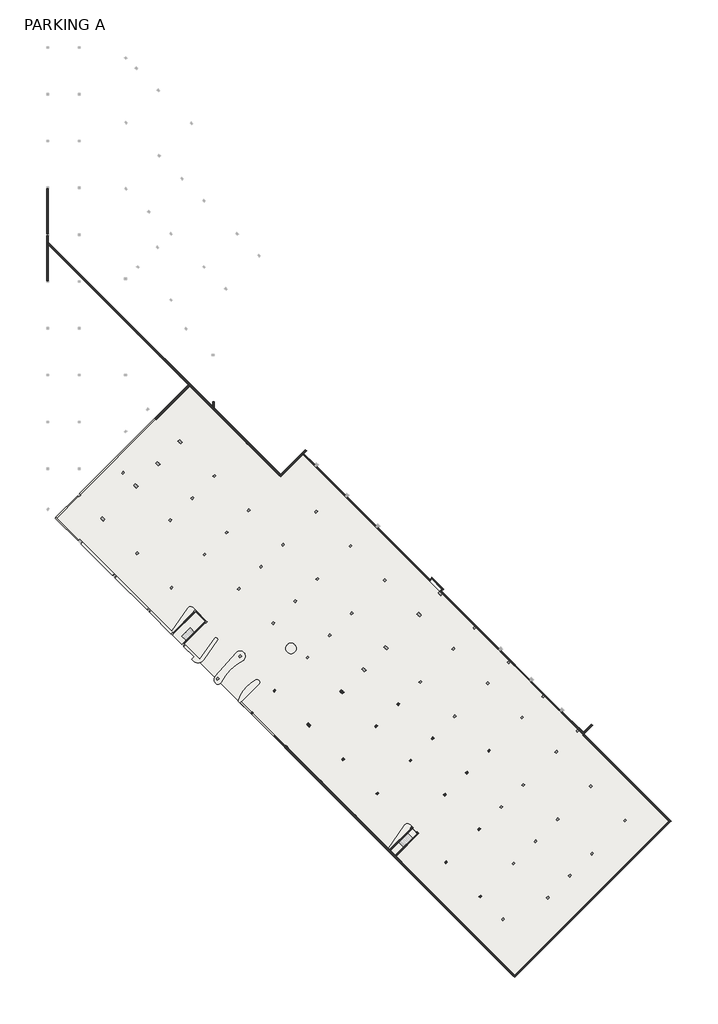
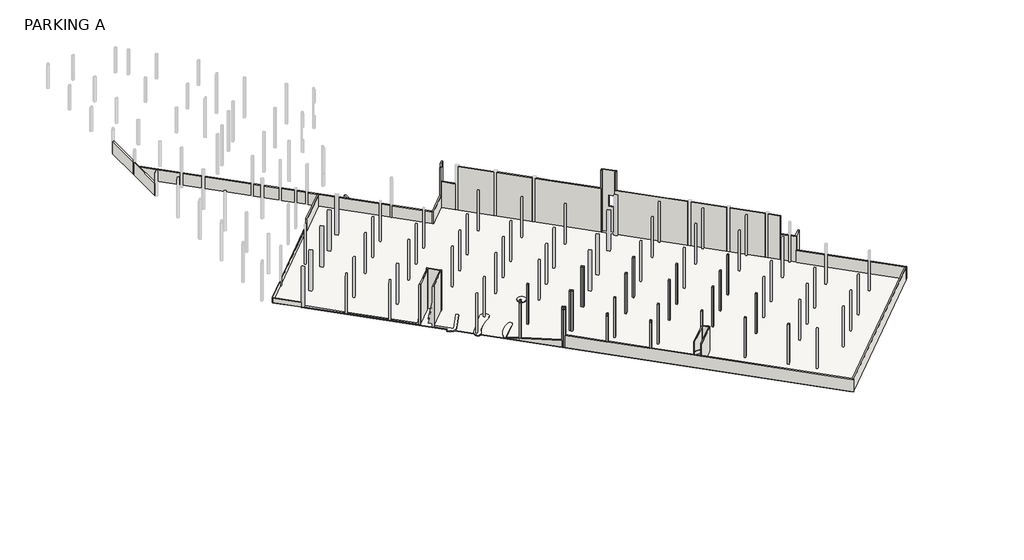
# One storey, part 1 of 3: 33 walls, 23 columns, 3 slabs, 1 door.
"""IFC4 building model written with IfcOpenShell, lengths in millimetres."""

from ifc_helpers import new_model, si_unit, point, frame, frame_2d, origin, place, context, project, spatial, polyline, circle_curve, trimmed, segment, composite_curve, outline, extrude, faceted_brep, transform, mapped, element, save
from components import column_746bd152, column_d698a775, door_25aa1bd3

model = new_model("IFC4")

# Units and contexts
model_context = context("Model", 3, world=origin())
ifc_project = project(units=[si_unit("LENGTHUNIT", "METRE", prefix="MILLI")], contexts=[model_context])

# Site, building, storey
site = spatial("IfcSite", under=ifc_project)
building = spatial("IfcBuilding", under=site)
storey = spatial("IfcBuildingStorey", under=building, Name="PARKING A", Elevation=-6007.1)

# Columns
placement = place(None, origin())
element("IfcColumn", 1, ObjectType="Rectangular Column : 12\" x 16\"", at=placement, inside=storey, context=model_context, shape_type="SweptSolid", body=[
    extrude(outline(polyline([(-15500.8515289, -25040.6553796), (-15285.325382, -25256.1815265), (-15572.6935779, -25543.5497224), (-15788.2197248, -25328.0235755), (-15500.8515289, -25040.6553796)])), frame((0.0, 0.0, -6007.1), z_axis=(0.0, 0.0, 1.0), x_axis=(1.0, 0.0, 0.0)), (0.0, 0.0, 1.0), 9232.9),
])
element("IfcColumn", 2, ObjectType="Rectangular Column : 12\" x 16\"", at=placement, inside=storey, context=model_context, shape_type="Brep", body=[
    faceted_brep([(-37430.6369765, -11013.4953185, -6007.1), (-37215.1108296, -11229.0214654, -6007.1), (-37286.9528786, -11300.8635144, -6007.1), (-37502.4790255, -11516.3896613, -6007.1), (-37718.0051724, -11300.8635144, -6007.1), (-37430.6369765, -11013.4953185, 3225.8), (-37215.1108296, -11229.0214654, 3225.8), (-37394.7159521, -11408.6265878, 3225.8), (-37394.7159521, -11408.6265878, 2717.8), (-37502.4790255, -11516.3896613, 2717.8), (-37502.4790255, -11516.3896613, 762.0), (-37502.4790255, -11516.3896613, -152.4), (-37502.4790255, -11516.3896613, -2286.0), (-37502.4790255, -11516.3896613, -3200.4), (-37718.0051724, -11300.8635144, 2717.8), (-37610.242099, -11193.1004409, 2717.8), (-37610.242099, -11193.1004409, 3225.8)], [[[0, 1, 2, 3, 4]], [[1, 0, 5, 6]], [[1, 6, 7, 8, 9, 10, 11, 12, 13, 3, 2]], [[4, 3, 13, 12, 11, 10, 9, 14]], [[0, 4, 14, 15, 16, 5]], [[6, 5, 16, 7]], [[15, 8, 7, 16]], [[8, 15, 14, 9]]]),
])
element("IfcColumn", 3, ObjectType="Rectangular Column : 12\" x 16\"", at=placement, inside=storey, context=model_context, shape_type="Brep", body=[
    faceted_brep([(-37466.558001, -10977.574294, -6007.1), (-37753.9261969, -11264.9424899, -6007.1), (-37969.4523438, -11049.416343, -6007.1), (-37753.9261969, -10833.8901961, -6007.1), (-37682.0841479, -10762.0481471, -6007.1), (-37682.0841479, -10762.0481471, 3225.8), (-37466.558001, -10977.574294, 3225.8), (-37969.4523438, -11049.416343, -4483.1), (-37969.4523438, -11049.416343, -3657.6), (-37969.4523438, -11049.416343, -2286.0), (-37969.4523438, -11049.416343, -609.6), (-37969.4523438, -11049.416343, 762.0), (-37969.4523438, -11049.416343, 2717.8), (-37861.6892703, -10941.6532695, 2717.8), (-37861.6892703, -10941.6532695, 3225.8), (-37753.9261969, -11264.9424899, 2717.8), (-37646.1631234, -11157.1794164, 3225.8), (-37646.1631234, -11157.1794164, 2717.8)], [[[0, 1, 2, 3, 4]], [[0, 4, 5, 6]], [[5, 4, 3, 2, 7, 8, 9, 10, 11, 12, 13, 14]], [[2, 1, 15, 12, 11, 10, 9, 8, 7]], [[1, 0, 6, 16, 17, 15]], [[6, 5, 14, 16]], [[13, 17, 16, 14]], [[17, 13, 12, 15]]]),
])
element("IfcColumn", 4, ObjectType="Rectangular Column : 12\" x 16\"", at=placement, inside=storey, context=model_context, shape_type="Brep", body=[
    faceted_brep([(-43591.0926756, -4853.0396194, -6007.1), (-43375.5665287, -5068.5657663, -6007.1), (-43447.4085777, -5140.4078153, -6007.1), (-43662.9347246, -4924.8816684, -6007.1), (-43591.0926756, -4853.0396194, 3225.8), (-43375.5665287, -5068.5657663, 3225.8), (-43555.1716511, -5248.1708888, 3225.8), (-43555.1716511, -5248.1708888, 2717.8), (-43662.9347246, -5355.9339622, 2717.8), (-43662.9347246, -5355.9339622, 762.0), (-43662.9347246, -5355.9339622, -609.6), (-43662.9347246, -5355.9339622, -2286.0), (-43662.9347246, -5355.9339622, -3657.6), (-43662.9347246, -5355.9339622, -5491.9102088), (-43447.4085777, -5140.4078153, -5491.9102088), (-43878.4608715, -5140.4078153, -5530.0986079), (-43878.4608715, -5140.4078153, 2717.8), (-43878.4608715, -5140.4078153, 762.0), (-43878.4608715, -5140.4078153, -609.6), (-43878.4608715, -5140.4078153, -2286.0), (-43878.4608715, -5140.4078153, -3657.6), (-43662.9347246, -4924.8816684, -5530.0986079), (-43770.697798, -5032.6447418, 2717.8), (-43770.697798, -5032.6447418, 3225.8)], [[[0, 1, 2, 3]], [[1, 0, 4, 5]], [[1, 5, 6, 7, 8, 9, 10, 11, 12, 13, 14, 2]], [[15, 13, 12, 11, 10, 9, 8, 16, 17, 18, 19, 20]], [[4, 0, 3, 21, 15, 20, 19, 18, 17, 16, 22, 23]], [[5, 4, 23, 6]], [[14, 21, 3, 2]], [[21, 14, 13, 15]], [[22, 7, 6, 23]], [[7, 22, 16, 8]]]),
])
element("IfcColumn", 5, ObjectType="Rectangular Column : 12\" x 16\"", at=placement, inside=storey, context=model_context, shape_type="Brep", body=[
    faceted_brep([(-25486.8963355, -22957.2359595, -6007.1), (-25271.3701886, -23172.7621064, -6007.1), (-25343.2122376, -23244.6041554, -6007.1), (-25558.7383845, -23029.0780085, -6007.1), (-25486.8963355, -22957.2359595, 3225.8), (-25271.3701886, -23172.7621064, 3225.8), (-25450.975311, -23352.3672288, 3225.8), (-25450.975311, -23352.3672288, 2717.8), (-25558.7383845, -23460.1303023, 2717.8), (-25558.7383845, -23460.1303023, 762.0), (-25558.7383845, -23460.1303023, -152.4), (-25558.7383845, -23460.1303023, -3200.4), (-25343.2122376, -23244.6041554, -3200.4), (-25774.2645314, -23244.6041554, -3200.4), (-25774.2645314, -23244.6041554, 2717.8), (-25774.2645314, -23244.6041554, 762.0), (-25774.2645314, -23244.6041554, -152.4), (-25558.7383845, -23029.0780085, -3200.4), (-25666.5014579, -23136.8410819, 2717.8), (-25666.5014579, -23136.8410819, 3225.8)], [[[0, 1, 2, 3]], [[1, 0, 4, 5]], [[1, 5, 6, 7, 8, 9, 10, 11, 12, 2]], [[13, 11, 10, 9, 8, 14, 15, 16]], [[4, 0, 3, 17, 13, 16, 15, 14, 18, 19]], [[5, 4, 19, 6]], [[12, 17, 3, 2]], [[17, 12, 11, 13]], [[18, 7, 6, 19]], [[7, 18, 14, 8]]]),
])
element("IfcColumn", 6, ObjectType="Rectangular Column : 12\" x 16\"", at=placement, inside=storey, context=model_context, shape_type="Brep", body=[
    faceted_brep([(-31521.6284489, -16922.5038461, -6007.1), (-31306.102302, -17138.029993, -6007.1), (-31377.9443509, -17209.872042, -6007.1), (-31593.4704978, -16994.3458951, -6007.1), (-31521.6284489, -16922.5038461, 3225.8), (-31306.102302, -17138.029993, 3225.8), (-31485.7074244, -17317.6351155, 3225.8), (-31485.7074244, -17317.6351155, 2717.8), (-31593.4704978, -17425.3981889, 2717.8), (-31593.4704978, -17425.3981889, 762.0), (-31593.4704978, -17425.3981889, -152.4), (-31593.4704978, -17425.3981889, -3200.4), (-31377.9443509, -17209.872042, -3200.4), (-31808.9966447, -17209.872042, -3200.4), (-31808.9966447, -17209.872042, 2717.8), (-31808.9966447, -17209.872042, 762.0), (-31808.9966447, -17209.872042, -152.4), (-31808.9966447, -17209.872042, -2286.0), (-31593.4704978, -16994.3458951, -3200.4), (-31701.2335713, -17102.1089686, -3200.4), (-31701.2335713, -17102.1089686, 2717.8), (-31701.2335713, -17102.1089686, 3225.8)], [[[0, 1, 2, 3]], [[1, 0, 4, 5]], [[1, 5, 6, 7, 8, 9, 10, 11, 12, 2]], [[13, 11, 10, 9, 8, 14, 15, 16, 17]], [[4, 0, 3, 18, 19, 13, 17, 16, 15, 14, 20, 21]], [[5, 4, 21, 6]], [[12, 18, 3, 2]], [[18, 12, 11, 13, 19]], [[20, 7, 6, 21]], [[7, 20, 14, 8]]]),
])
column_shape = column_746bd152(model_context)
element("IfcColumn", 7, ObjectType="Rectangular Column : 12\" x 16\"", at=placement, inside=storey, context=model_context, shape_type="MappedRepresentation", body=[
    mapped(column_shape, transform((-3467.3083267, -37361.5667777, 0.0), x_axis=(0.7071067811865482, 0.7071067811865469, 0.0), y_axis=(-0.7071067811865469, 0.7071067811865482, 0.0), z_axis=(0.0, 0.0, 1.0))),
])
element("IfcColumn", 8, ObjectType="Rectangular Column : 12\" x 16\"", at=placement, inside=storey, context=model_context, shape_type="MappedRepresentation", body=[
    mapped(column_shape, transform((-3682.8344736, -25507.6286979, 0.0), x_axis=(0.7071067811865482, 0.7071067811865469, 0.0), y_axis=(-0.7071067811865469, 0.7071067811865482, 0.0), z_axis=(0.0, 0.0, 1.0))),
])
element("IfcColumn", 9, ObjectType="Rectangular Column : 12\" x 16\"", at=placement, inside=storey, context=model_context, shape_type="MappedRepresentation", body=[
    mapped(column_shape, transform((-9502.04044, -31326.8346643, 0.0), x_axis=(0.7071067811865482, 0.7071067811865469, 0.0), y_axis=(-0.7071067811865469, 0.7071067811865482, 0.0), z_axis=(0.0, 0.0, 1.0))),
])
element("IfcColumn", 10, ObjectType="Rectangular Column : 12\" x 16\"", at=placement, inside=storey, context=model_context, shape_type="MappedRepresentation", body=[
    mapped(column_shape, transform((-1958.6252983, -11713.9552959, 0.0), x_axis=(0.7071067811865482, 0.7071067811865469, 0.0), y_axis=(-0.7071067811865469, 0.7071067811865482, 0.0), z_axis=(0.0, 0.0, 1.0))),
])
element("IfcColumn", 11, ObjectType="Rectangular Column : 12\" x 16\"", at=placement, inside=storey, context=model_context, shape_type="MappedRepresentation", body=[
    mapped(column_shape, transform((-5838.0959426, -15593.4259402, 0.0), x_axis=(0.7071067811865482, 0.7071067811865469, 0.0), y_axis=(-0.7071067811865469, 0.7071067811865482, 0.0), z_axis=(0.0, 0.0, 1.0))),
])
element("IfcColumn", 12, ObjectType="Rectangular Column : 12\" x 16\"", at=placement, inside=storey, context=model_context, shape_type="MappedRepresentation", body=[
    mapped(column_shape, transform((-9717.5665869, -19472.8965845, 0.0), x_axis=(0.7071067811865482, 0.7071067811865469, 0.0), y_axis=(-0.7071067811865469, 0.7071067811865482, 0.0), z_axis=(0.0, 0.0, 1.0))),
])
element("IfcColumn", 13, ObjectType="Rectangular Column : 12\" x 16\"", at=placement, inside=storey, context=model_context, shape_type="MappedRepresentation", body=[
    mapped(column_shape, transform((-11872.828056, -9558.6938269, 0.0), x_axis=(0.7071067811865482, 0.7071067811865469, 0.0), y_axis=(-0.7071067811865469, 0.7071067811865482, 0.0), z_axis=(0.0, 0.0, 1.0))),
])
element("IfcColumn", 14, ObjectType="Rectangular Column : 12\" x 16\"", at=placement, inside=storey, context=model_context, shape_type="MappedRepresentation", body=[
    mapped(column_shape, transform((-15752.2987003, -13438.1644712, 0.0), x_axis=(0.7071067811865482, 0.7071067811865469, 0.0), y_axis=(-0.7071067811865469, 0.7071067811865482, 0.0), z_axis=(0.0, 0.0, 1.0))),
])
element("IfcColumn", 15, ObjectType="Rectangular Column : 12\" x 16\"", at=placement, inside=storey, context=model_context, shape_type="MappedRepresentation", body=[
    mapped(column_shape, transform((-21571.5046667, -19257.3704376, 0.0), x_axis=(0.7071067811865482, 0.7071067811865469, 0.0), y_axis=(-0.7071067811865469, 0.7071067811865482, 0.0), z_axis=(0.0, 0.0, 1.0))),
])
element("IfcColumn", 16, ObjectType="Rectangular Column : 12\" x 16\"", at=placement, inside=storey, context=model_context, shape_type="MappedRepresentation", body=[
    mapped(column_shape, transform((-17907.5601693, -3523.9617135, 0.0), x_axis=(0.7071067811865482, 0.7071067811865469, 0.0), y_axis=(-0.7071067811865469, 0.7071067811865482, 0.0), z_axis=(0.0, 0.0, 1.0))),
])
element("IfcColumn", 17, ObjectType="Rectangular Column : 12\" x 16\"", at=placement, inside=storey, context=model_context, shape_type="MappedRepresentation", body=[
    mapped(column_shape, transform((-21787.0308136, -7403.4323578, 0.0), x_axis=(0.7071067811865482, 0.7071067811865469, 0.0), y_axis=(-0.7071067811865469, 0.7071067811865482, 0.0), z_axis=(0.0, 0.0, 1.0))),
])
element("IfcColumn", 18, ObjectType="Rectangular Column : 12\" x 16\"", at=placement, inside=storey, context=model_context, shape_type="MappedRepresentation", body=[
    mapped(column_shape, transform((-27606.2367801, -13222.6383243, 0.0), x_axis=(0.7071067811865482, 0.7071067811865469, 0.0), y_axis=(-0.7071067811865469, 0.7071067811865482, 0.0), z_axis=(0.0, 0.0, 1.0))),
])
element("IfcColumn", 19, ObjectType="Rectangular Column : 12\" x 16\"", at=placement, inside=storey, context=model_context, shape_type="MappedRepresentation", body=[
    mapped(column_shape, transform((-27696.0393413, -1494.4238301, 0.0), x_axis=(0.7071067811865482, 0.7071067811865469, 0.0), y_axis=(-0.7071067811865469, 0.7071067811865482, 0.0), z_axis=(0.0, 0.0, 1.0))),
])
element("IfcColumn", 20, ObjectType="Rectangular Column : 12\" x 16\"", at=placement, inside=storey, context=model_context, shape_type="MappedRepresentation", body=[
    mapped(column_shape, transform((-33515.2453078, -7313.6297966, 0.0), x_axis=(0.7071067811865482, 0.7071067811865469, 0.0), y_axis=(-0.7071067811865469, 0.7071067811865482, 0.0), z_axis=(0.0, 0.0, 1.0))),
])
element("IfcColumn", 21, ObjectType="Rectangular Column : 12\" x 16\"", at=placement, inside=storey, context=model_context, shape_type="MappedRepresentation", body=[
    mapped(column_shape, transform((-39675.7010068, -1153.1740975, 0.0), x_axis=(0.7071067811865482, 0.7071067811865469, 0.0), y_axis=(-0.7071067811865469, 0.7071067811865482, 0.0), z_axis=(0.0, 0.0, 1.0))),
])
column_2_shape = column_d698a775(model_context)
element("IfcColumn", 22, ObjectType="Rectangular Column : 12\" x 16\"", at=placement, inside=storey, context=model_context, shape_type="MappedRepresentation", body=[
    mapped(column_2_shape, transform((-27947.4865127, -1242.9766588, 0.0), x_axis=(0.7071067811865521, 0.707106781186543, 0.0), y_axis=(-0.707106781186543, 0.7071067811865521, 0.0), z_axis=(0.0, 0.0, 1.0))),
])
element("IfcColumn", 23, ObjectType="Rectangular Column : 12\" x 16\"", at=placement, inside=storey, context=model_context, shape_type="MappedRepresentation", body=[
    mapped(column_2_shape, transform((-33766.6924791, -7062.1826252, 0.0), x_axis=(0.7071067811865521, 0.707106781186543, 0.0), y_axis=(-0.707106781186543, 0.7071067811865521, 0.0), z_axis=(0.0, 0.0, 1.0))),
])

# Door
door_shape = door_25aa1bd3(model_context)
element("IfcDoor", 24, ObjectType="Single Flush-Full Flush-FF : 3'-0\" X 8'-6\"", at=placement, inside=storey, context=model_context, shape_type="MappedRepresentation", body=[
    mapped(door_shape, transform((-14997.9571861, -25687.2338203, -6007.1), x_axis=(0.7071067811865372, -0.7071067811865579, 0.0), y_axis=(0.7071067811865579, 0.7071067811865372, 0.0), z_axis=(0.0, 0.0, 1.0))),
])

# Slabs
element("IfcSlab", 25, ObjectType="5\" Concrete Slab", at=placement, inside=storey, context=model_context, shape_type="SweptSolid", body=[
    extrude(outline(polyline([(2351.8976398, -51370.7663266), (-74177.845024, 25158.9763372), (-74070.0819505, 25266.7394106), (-77989.9637473, 29186.6212075), (-60568.2668725, 46608.3180824), (-60460.503799, 46500.5550089), (-54569.4557836, 52391.6030243), (-38593.5801442, 36415.727385), (-34660.2279632, 40349.079566), (14627.9077573, -8939.0561545), (14538.1051961, -9028.8587157), (29615.9552234, -24106.708743), (2351.8976398, -51370.7663266)])), frame((0.0, 0.0, -6134.1), z_axis=(0.0, 0.0, 1.0), x_axis=(1.0, 0.0, 0.0)), (0.0, 0.0, 1.0), 127.0),
])
element("IfcSlab", 26, ObjectType="6\" Curb", at=placement, inside=storey, context=model_context, shape_type="SweptSolid", body=[
    extrude(outline(composite_curve([segment(polyline([(-19452.1642222, -29135.6521708), (-19667.6903691, -28920.1260239), (-16770.6256157, -24782.688771)]), True, "CONTINUOUS"), segment(trimmed(circle_curve(frame_2d((-16271.2705295, -25132.3409666)), 609.6), [point((-16770.6256157, -24782.688771))], [point((-15840.2182357, -24701.2886728))], False, "CARTESIAN"), True, "CONTINUOUS"), segment(polyline([(-15840.2182357, -24701.2886728), (-15429.0094799, -25112.4974286), (-19452.1642222, -29135.6521708)]), True, "CONTINUOUS")], self_intersect=False)), frame((0.0, 0.0, -6007.1), z_axis=(0.0, 0.0, 1.0), x_axis=(1.0, 0.0, 0.0)), (0.0, 0.0, 1.0), 152.4),
])
element("IfcSlab", 27, ObjectType="6\" Curb", at=placement, inside=storey, context=model_context, shape_type="SweptSolid", body=[
    extrude(outline(composite_curve([segment(polyline([(-42423.6593799, -21.6618263), (-45494.9069733, -3092.9094197), (-43662.9347246, -4924.8816684), (-43878.4608715, -5140.4078153), (-46001.1359449, -3017.7327418)]), True, "CONTINUOUS"), segment(trimmed(circle_curve(frame_2d((-40399.7361128, -4488.2147583)), 5791.2), [point((-46001.1359449, -3017.7327418))], [point((-42942.3821701, 714.9523991))], False, "CARTESIAN"), True, "CONTINUOUS"), segment(trimmed(circle_curve(frame_2d((-42746.9486002, 301.6273941)), 457.2), [point((-42942.3821701, 714.9523991))], [point((-42423.6593799, -21.6618263))], False, "CARTESIAN"), True, "CONTINUOUS")], self_intersect=False)), frame((0.0, 0.0, -6007.1), z_axis=(0.0, 0.0, 1.0), x_axis=(1.0, 0.0, 0.0)), (0.0, 0.0, 1.0), 152.4),
    extrude(outline(composite_curve([segment(trimmed(circle_curve(frame_2d((-36760.4925246, 6257.2429086)), 914.4), [point((-37674.8925246, 6257.2429086))], [point((-35846.0925246, 6257.2429086))], False, "CARTESIAN"), True, "CONTINUOUS"), segment(trimmed(circle_curve(frame_2d((-36760.4925246, 6257.2429086)), 914.4), [point((-35846.0925246, 6257.2429086))], [point((-37674.8925246, 6257.2429086))], False, "CARTESIAN"), True, "CONTINUOUS")], self_intersect=False)), frame((0.0, 0.0, -6007.1), z_axis=(0.0, 0.0, 1.0), x_axis=(1.0, 0.0, 0.0)), (0.0, 0.0, 1.0), 152.4),
    extrude(outline(composite_curve([segment(trimmed(circle_curve(frame_2d((-49601.5176949, 581.5169764)), 609.6), [point((-49068.777519, 285.2062188))], [point((-50085.8848918, 211.3810844))], False, "CARTESIAN"), True, "CONTINUOUS"), segment(trimmed(circle_curve(frame_2d((-49378.1230478, 790.346137)), 914.4), [point((-50085.8848918, 211.3810844))], [point((-50088.5662018, 1366.0178185))], False, "CARTESIAN"), True, "CONTINUOUS"), segment(polyline([(-50088.5662018, 1366.0178185), (-46357.0115609, 5528.1364565)]), True, "CONTINUOUS"), segment(trimmed(circle_curve(frame_2d((-45710.4331202, 4881.5580158)), 914.4), [point((-46357.0115609, 5528.1364565))], [point((-45240.1191181, 4097.3819518))], False, "CARTESIAN"), True, "CONTINUOUS"), segment(trimmed(circle_curve(frame_2d((-41442.3820548, -3545.4693851)), 8534.4), [point((-45240.1191181, 4097.3819518))], [point((-49068.777519, 285.2062188))], True, "CARTESIAN"), True, "CONTINUOUS")], self_intersect=False)), frame((0.0, 0.0, -6007.1), z_axis=(0.0, 0.0, 1.0), x_axis=(1.0, 0.0, 0.0)), (0.0, 0.0, 1.0), 152.4),
    extrude(outline(composite_curve([segment(polyline([(-54224.19534, 4342.4269536), (-53792.9467781, 4773.6514753), (-55588.850469, 6569.6552855), (-55301.1404723, 6857.4758252), (-52781.5721909, 4338.8752327), (-50205.5171917, 8011.6431569)]), True, "CONTINUOUS"), segment(trimmed(circle_curve(frame_2d((-49986.6968212, 7792.8227864)), 309.4587357), [point((-50205.5171917, 8011.6431569))], [point((-49706.4403238, 7661.5939605))], False, "CARTESIAN"), True, "CONTINUOUS"), segment(polyline([(-49706.4403238, 7661.5939605), (-52109.8244413, 4235.3100955)]), True, "CONTINUOUS"), segment(trimmed(circle_curve(frame_2d((-53101.7047906, 4943.4956785)), 1218.7507732), [point((-52109.8244413, 4235.3100955))], [point((-53963.7528372, 4081.9699316))], False, "CARTESIAN"), True, "CONTINUOUS"), segment(polyline([(-53963.7528372, 4081.9699316), (-54224.19534, 4342.4269536)]), True, "CONTINUOUS")], self_intersect=False)), frame((0.0, 0.0, -6007.1), z_axis=(0.0, 0.0, 1.0), x_axis=(1.0, 0.0, 0.0)), (0.0, 0.0, 1.0), 152.4),
    extrude(outline(composite_curve([segment(polyline([(-61336.0787708, 12891.9464758), (-57720.7229895, 9276.5906945), (-54882.8325935, 13329.5182068)]), True, "CONTINUOUS"), segment(trimmed(circle_curve(frame_2d((-54383.4775073, 12979.8660112)), 609.6), [point((-54882.8325935, 13329.5182068))], [point((-53952.4252135, 13410.918305))], False, "CARTESIAN"), True, "CONTINUOUS"), segment(polyline([(-53952.4252135, 13410.918305), (-53541.2164577, 12999.7095493), (-57779.8973469, 8761.0286601), (-61623.4469667, 12604.5782799), (-61336.0787708, 12891.9464758)]), True, "CONTINUOUS")], self_intersect=False)), frame((0.0, 0.0, -6007.1), z_axis=(0.0, 0.0, 1.0), x_axis=(1.0, 0.0, 0.0)), (0.0, 0.0, 1.0), 152.4),
    extrude(outline(polyline([(-67370.8108842, 18926.6785892), (-61838.9731136, 13394.8408186), (-62126.3413095, 13107.4726227), (-67658.1790801, 18639.3103933), (-67370.8108842, 18926.6785892)])), frame((0.0, 0.0, -6007.1), z_axis=(0.0, 0.0, 1.0), x_axis=(1.0, 0.0, 0.0)), (0.0, 0.0, 1.0), 152.4),
    extrude(outline(polyline([(-67873.705227, 19429.5729319), (-68161.0734228, 19142.2047361), (-73692.9111934, 24674.0425067), (-73405.5429975, 24961.4107025), (-67873.705227, 19429.5729319)])), frame((0.0, 0.0, -6007.1), z_axis=(0.0, 0.0, 1.0), x_axis=(1.0, 0.0, 0.0)), (0.0, 0.0, 1.0), 152.4),
])

# Walls
element("IfcWall", 28, ObjectType="01-CONCRETE-12", at=placement, inside=storey, context=model_context, shape_type="Brep", body=[
    faceted_brep([(14538.1051961, -9028.8587157, -6007.1), (29615.9552234, -24106.708743, -6007.1), (29831.4813703, -24322.2348899, -6007.1), (29831.4813703, -24322.2348899, -3200.4), (29615.9552234, -24106.708743, -3200.4), (14538.1051961, -9028.8587157, -3200.4), (14753.631343, -8813.3325688, -6007.1), (14753.631343, -8813.3325688, -3200.4), (30047.0075172, -24106.708743, -3200.4), (30047.0075172, -24106.708743, -6007.1)], [[[0, 1, 2, 3, 4, 5]], [[6, 7, 8, 9]], [[2, 1, 0, 6, 9]], [[5, 4, 3, 8, 7]], [[0, 5, 7, 6]], [[3, 2, 9, 8]]]),
])
element("IfcWall", 29, ObjectType="01-CONCRETE-12", at=placement, inside=storey, context=model_context, shape_type="SweptSolid", body=[
    extrude(outline(polyline([(2567.4237867, -51155.2401797), (29615.9552234, -24106.708743), (29831.4813703, -24322.2348899), (2782.9499336, -51370.7663266), (2567.4237867, -51155.2401797)])), frame((0.0, 0.0, -6007.1), z_axis=(0.0, 0.0, 1.0), x_axis=(1.0, 0.0, 0.0)), (0.0, 0.0, 1.0), 2806.7),
])
element("IfcWall", 30, ObjectType="01-CONCRETE-12", at=placement, inside=storey, context=model_context, shape_type="Brep", body=[
    faceted_brep([(12441.2153918, -6716.4427645, -6007.1), (14627.9077573, -8903.13513, -6007.1), (14627.9077573, -8903.13513, -152.4), (12441.2153918, -6716.4427645, -152.4), (12656.7415387, -6500.9166176, -6007.1), (12656.7415387, -6500.9166176, -152.4), (14627.9077573, -8472.0828362, -152.4), (14843.4339042, -8687.6089831, -152.4), (14843.4339042, -8687.6089831, -6007.1), (14627.9077573, -8472.0828362, -6007.1)], [[[0, 1, 2, 3]], [[4, 5, 6, 7, 8, 9]], [[1, 0, 4, 9, 8]], [[3, 2, 7, 6, 5]], [[0, 3, 5, 4]], [[2, 1, 8, 7]]]),
])
element("IfcWall", 31, ObjectType="01-CONCRETE-12", at=placement, inside=storey, context=model_context, shape_type="SweptSolid", body=[
    extrude(outline(polyline([(16244.3538591, -7286.6890282), (14843.4339042, -8687.6089831), (14627.9077573, -8472.0828362), (16028.8277122, -7071.1628813), (16244.3538591, -7286.6890282)])), frame((0.0, 0.0, -6007.1), z_axis=(0.0, 0.0, 1.0), x_axis=(1.0, 0.0, 0.0)), (0.0, 0.0, 1.0), 5854.7),
])
element("IfcWall", 32, ObjectType="01-CONCRETE-12", at=placement, inside=storey, context=model_context, shape_type="Brep", body=[
    faceted_brep([(2782.9499336, -51370.7663266, -6007.1), (2567.4237867, -51155.2401797, -6007.1), (-18302.6914387, -30285.1249543, -6007.1), (-18446.3755366, -30141.4408564, -6007.1), (-19308.4801242, -29279.3362687, -6007.1), (-19452.1642222, -29135.6521708, -6007.1), (-25343.2122376, -23244.6041554, -6007.1), (-25558.7383845, -23029.0780085, -6007.1), (-31377.9443509, -17209.872042, -6007.1), (-31593.4704978, -16994.3458951, -6007.1), (-37286.9528786, -11300.8635144, -6007.1), (-37286.9528786, -11300.8635144, -3200.4), (-31593.4704978, -16994.3458951, -3200.4), (-31377.9443509, -17209.872042, -3200.4), (-25558.7383845, -23029.0780085, -3200.4), (-25343.2122376, -23244.6041554, -3200.4), (-18446.3755366, -30141.4408564, -3200.4), (-18302.6914387, -30285.1249543, -3200.4), (2567.4237867, -51155.2401797, -3200.4), (2782.9499336, -51370.7663266, -3200.4), (2567.4237867, -51586.2924735, -6007.1), (2567.4237867, -51586.2924735, -3200.4), (-25558.7383845, -23460.1303023, -3200.4), (-25774.2645314, -23244.6041554, -3200.4), (-31593.4704978, -17425.3981889, -3200.4), (-31808.9966447, -17209.872042, -3200.4), (-37502.4790255, -11516.3896613, -3200.4), (-37502.4790255, -11516.3896613, -6007.1)], [[[0, 1, 2, 3, 4, 5, 6, 7, 8, 9, 10, 11, 12, 13, 14, 15, 16, 17, 18, 19]], [[20, 21, 22, 23, 24, 25, 26, 27]], [[10, 9, 8, 7, 6, 5, 4, 3, 2, 1, 0, 20, 27]], [[11, 10, 27, 26]], [[19, 18, 17, 16, 15, 14, 13, 12, 11, 26, 25, 24, 23, 22, 21]], [[0, 19, 21, 20]]]),
])
element("IfcWall", 33, ObjectType="01-CONCRETE-12", at=placement, inside=storey, context=model_context, shape_type="Brep", body=[
    faceted_brep([(-45710.4331202, -3308.4355666, -6007.1), (-37969.4523438, -11049.416343, -6007.1), (-37969.4523438, -11049.416343, -4483.1), (-43662.9347246, -5355.9339622, -5491.9102088), (-43878.4608715, -5140.4078153, -5530.0986079), (-45710.4331202, -3308.4355666, -5854.7), (-45494.9069733, -3092.9094197, -6007.1), (-45494.9069733, -3092.9094197, -5854.7), (-43662.9347246, -4924.8816684, -5530.0986079), (-43447.4085777, -5140.4078153, -5491.9102088), (-37753.9261969, -10833.8901961, -4483.1), (-37753.9261969, -10833.8901961, -6007.1), (-43447.4085777, -5140.4078153, -6007.1), (-43662.9347246, -4924.8816684, -6007.1)], [[[0, 1, 2, 3, 4, 5]], [[6, 7, 8, 9, 10, 11, 12, 13]], [[1, 0, 6, 13, 12, 11]], [[2, 1, 11, 10]], [[5, 4, 3, 2, 10, 9, 8, 7]], [[0, 5, 7, 6]]]),
])
element("IfcWall", 34, ObjectType="01-CONCRETE-12", at=placement, inside=storey, context=model_context, shape_type="Brep", body=[
    faceted_brep([(-34875.7541101, 40564.6057129, -6007.1), (-38593.5801442, 36846.7796788, -6007.1), (-38809.1062911, 36631.2535319, -6007.1), (-38809.1062911, 36631.2535319, -3327.4), (-38809.1062911, 36631.2535319, -3200.4), (-34875.7541101, 40564.6057129, -3200.4), (-34660.2279632, 40349.079566, -6007.1), (-34660.2279632, 40349.079566, -3200.4), (-38593.5801442, 36415.727385, -3200.4), (-38593.5801442, 36415.727385, -6007.1)], [[[0, 1, 2, 3, 4, 5]], [[6, 7, 8, 9]], [[2, 1, 0, 6, 9]], [[5, 4, 8, 7]], [[0, 5, 7, 6]], [[4, 3, 2, 9, 8]]]),
])
element("IfcWall", 35, ObjectType="01-CONCRETE-12", at=placement, inside=storey, context=model_context, shape_type="Brep", body=[
    faceted_brep([(-38593.5801442, 36846.7796788, -6007.1), (-50248.8083521, 48502.0078866, -6007.1), (-50553.6083521, 48806.8078866, -6007.1), (-79436.313691, 77689.5132255, -6007.1), (-79436.313691, 77689.5132255, -3327.4), (-56105.0795803, 54358.2791148, -3327.4), (-55889.5534334, 54142.7529679, -3327.4), (-44381.3552142, 42634.5547488, -3327.4), (-44165.8290673, 42419.0286019, -3327.4), (-38593.5801442, 36846.7796788, -3327.4), (-38809.1062911, 36631.2535319, -6007.1), (-38809.1062911, 36631.2535319, -3327.4), (-44381.3552142, 42203.502455, -3327.4), (-44596.8813612, 42419.0286019, -3327.4), (-54569.4557836, 52391.6030243, -3327.4), (-54784.9819305, 52607.1291712, -3327.4), (-56105.0795803, 53927.226821, -3327.4), (-56320.6057272, 54142.7529679, -3327.4), (-59791.474718, 57613.6219587, -3327.4), (-60078.8429139, 57900.9901546, -3327.4), (-63635.0243378, 61457.1715786, -3327.4), (-63922.3925337, 61744.5397744, -3327.4), (-79436.313691, 77258.4609317, -3327.4), (-79436.313691, 77258.4609317, -6007.1), (-63922.3925337, 61744.5397744, -6007.1), (-63635.0243378, 61457.1715786, -6007.1), (-60078.8429139, 57900.9901546, -6007.1), (-59791.474718, 57613.6219587, -6007.1), (-56320.6057272, 54142.7529679, -6007.1), (-56105.0795803, 53927.226821, -6007.1), (-54784.9819305, 52607.1291712, -6007.1), (-54569.4557836, 52391.6030243, -6007.1), (-44596.8813612, 42419.0286019, -6007.1), (-44381.3552142, 42203.502455, -6007.1)], [[[0, 1, 2, 3, 4, 5, 6, 7, 8, 9]], [[10, 11, 12, 13, 14, 15, 16, 17, 18, 19, 20, 21, 22, 23, 24, 25, 26, 27, 28, 29, 30, 31, 32, 33]], [[3, 2, 1, 0, 10, 33, 32, 31, 30, 29, 28, 27, 26, 25, 24, 23]], [[9, 8, 7, 6, 5, 4, 22, 21, 20, 19, 18, 17, 16, 15, 14, 13, 12, 11]], [[0, 9, 11, 10]], [[4, 3, 23, 22]]]),
])
element("IfcWall", 36, ObjectType="01-CONCRETE-12", at=placement, inside=storey, context=model_context, shape_type="Brep", body=[
    faceted_brep([(-54784.9819305, 52607.1291712, -6007.1), (-60676.0299459, 46716.0811558, -6007.1), (-60676.0299459, 46716.0811558, -4940.3), (-60676.0299459, 46716.0811558, -3327.4), (-54784.9819305, 52607.1291712, -3327.4), (-54569.4557836, 52391.6030243, -6007.1), (-54569.4557836, 52391.6030243, -3327.4), (-60460.503799, 46500.5550089, -3327.4), (-60460.503799, 46500.5550089, -6007.1), (-60568.2668725, 46608.3180824, -6007.1)], [[[0, 1, 2, 3, 4]], [[5, 6, 7, 8]], [[1, 0, 5, 8, 9]], [[3, 2, 1, 9, 8, 7]], [[4, 3, 7, 6]], [[0, 4, 6, 5]]]),
])
element("IfcWall", 37, ObjectType="01-CONCRETE-12", at=placement, inside=storey, context=model_context, shape_type="SweptSolid", body=[
    extrude(outline(polyline([(-50248.8083521, 49637.0396908), (-50248.8083521, 48502.0078866), (-50553.6083521, 48806.8078866), (-50553.6083521, 49637.0396908), (-50248.8083521, 49637.0396908)])), frame((0.0, 0.0, -6007.1), z_axis=(0.0, 0.0, 1.0), x_axis=(1.0, 0.0, 0.0)), (0.0, 0.0, 1.0), 2806.7),
])
element("IfcWall", 38, ObjectType="01-CONCRETE-12", at=placement, inside=storey, context=model_context, shape_type="Brep", body=[
    faceted_brep([(-79436.313691, 70928.2660287, -6007.1), (-79436.313691, 77258.4609317, -6007.1), (-79436.313691, 77689.5132255, -6007.1), (-79436.313691, 78853.0660287, -6007.1), (-79436.313691, 78853.0660287, -3200.4), (-79436.313691, 70928.2660287, -3200.4), (-79741.113691, 70928.2660287, -6007.1), (-79741.113691, 70928.2660287, -3200.4), (-79741.113691, 78853.0660287, -3200.4), (-79741.113691, 78853.0660287, -6007.1)], [[[0, 1, 2, 3, 4, 5]], [[6, 7, 8, 9]], [[3, 2, 1, 0, 6, 9]], [[4, 3, 9, 8]], [[5, 4, 8, 7]], [[0, 5, 7, 6]]]),
])
element("IfcWall", 39, ObjectType="01-CONCRETE-12", at=placement, inside=storey, context=model_context, shape_type="SweptSolid", body=[
    extrude(outline(polyline([(-79741.113691, 79157.8660287), (-79741.113691, 87082.6660287), (-79436.313691, 87082.6660287), (-79436.313691, 79157.8660287), (-79741.113691, 79157.8660287)])), frame((0.0, 0.0, -6007.1), z_axis=(0.0, 0.0, 1.0), x_axis=(1.0, 0.0, 0.0)), (0.0, 0.0, 1.0), 2806.7),
])
element("IfcWall", 40, ObjectType="01-CONCRETE-12", at=placement, inside=storey, context=model_context, shape_type="Brep", body=[
    faceted_brep([(-34660.2279632, 40349.079566, 3225.8), (-34660.2279632, 40349.079566, 3098.8), (-34660.2279632, 40349.079566, -3200.4), (-34660.2279632, 40349.079566, -6007.1), (-34013.6495225, 40995.6580067, -6007.1), (-34013.6495225, 40995.6580067, 0.0), (-34013.6495225, 40995.6580067, 4089.4), (-34157.3336204, 40851.9739088, 4089.4), (-34498.583353, 40510.7241762, 4089.4), (-34498.583353, 40510.7241762, 3225.8), (-34875.7541101, 40564.6057129, -6007.1), (-34875.7541101, 40564.6057129, -3200.4), (-34875.7541101, 40564.6057129, 3098.8), (-34875.7541101, 40564.6057129, 3225.8), (-34714.1094999, 40726.2503231, 3225.8), (-34714.1094999, 40726.2503231, 4089.4), (-34229.1756694, 41211.1841536, 4089.4), (-34229.1756694, 41211.1841536, -6007.1)], [[[0, 1, 2, 3, 4, 5, 6, 7, 8, 9]], [[10, 11, 12, 13, 14, 15, 16, 17]], [[4, 3, 10, 17]], [[8, 7, 6, 16, 15]], [[6, 5, 4, 17, 16]], [[0, 13, 12, 11, 10, 3, 2, 1]], [[9, 14, 13, 0]], [[9, 8, 15, 14]]]),
])
element("IfcWall", 41, ObjectType="01-CONCRETE-6", at=placement, inside=storey, context=model_context, shape_type="Brep", body=[
    faceted_brep([(-74070.0819505, 25266.7394106, -6007.1), (-77989.9637473, 29186.6212075, -6007.1), (-78097.7268208, 29294.3842809, -6007.1), (-78097.7268208, 29294.3842809, -4940.3), (-77989.9637473, 29186.6212075, -4940.3), (-74070.0819505, 25266.7394106, -4940.3), (-74177.845024, 25158.9763372, -6007.1), (-74177.845024, 25158.9763372, -4940.3), (-78205.4898943, 29186.6212075, -4940.3), (-78205.4898943, 29186.6212075, -6007.1)], [[[0, 1, 2, 3, 4, 5]], [[6, 7, 8, 9]], [[2, 1, 0, 6, 9]], [[5, 4, 3, 8, 7]], [[0, 5, 7, 6]], [[3, 2, 9, 8]]]),
])
element("IfcWall", 42, ObjectType="01-CONCRETE-6", at=placement, inside=storey, context=model_context, shape_type="SweptSolid", body=[
    extrude(outline(polyline([(-74146.4141275, 33030.1708273), (-77989.9637473, 29186.6212075), (-78097.7268208, 29294.3842809), (-74254.177201, 33137.9339008), (-74146.4141275, 33030.1708273)])), frame((0.0, 0.0, -6007.1), z_axis=(0.0, 0.0, 1.0), x_axis=(1.0, 0.0, 0.0)), (0.0, 0.0, 1.0), 1066.8),
])
element("IfcWall", 43, ObjectType="01-CONCRETE-6", at=placement, inside=storey, context=model_context, shape_type="SweptSolid", body=[
    extrude(outline(polyline([(-73966.8090051, 33425.3020966), (-60676.0299459, 46716.0811558), (-60568.2668725, 46608.3180824), (-73859.0459317, 33317.5390232), (-73966.8090051, 33425.3020966)])), frame((0.0, 0.0, -6007.1), z_axis=(0.0, 0.0, 1.0), x_axis=(1.0, 0.0, 0.0)), (0.0, 0.0, 1.0), 1066.8),
])
element("IfcWall", 44, ObjectType="01-MASONRY-8", at=placement, inside=storey, context=model_context, shape_type="SweptSolid", body=[
    extrude(outline(polyline([(5567.5801224, 444.5607007), (10494.7448776, -4482.6040544), (10351.0607796, -4626.2881524), (5423.8960245, 300.8766028), (5567.5801224, 444.5607007)])), frame((0.0, 0.0, -6007.1), z_axis=(0.0, 0.0, 1.0), x_axis=(1.0, 0.0, 0.0)), (0.0, 0.0, 1.0), 10096.5),
])
element("IfcWall", 45, ObjectType="01-MASONRY-8", at=placement, inside=storey, context=model_context, shape_type="SweptSolid", body=[
    extrude(outline(polyline([(12441.2153918, -6716.4427645), (10782.1130735, -5057.3404462), (10925.7971714, -4913.6563482), (12584.8994898, -6572.7586666), (12441.2153918, -6716.4427645)])), frame((0.0, 0.0, -6007.1), z_axis=(0.0, 0.0, 1.0), x_axis=(1.0, 0.0, 0.0)), (0.0, 0.0, 1.0), 10096.5),
])
element("IfcWall", 46, ObjectType="01-MASONRY-8", at=placement, inside=storey, context=model_context, shape_type="SweptSolid", body=[
    extrude(outline(polyline([(4992.8437307, 731.9288966), (35.9210245, 5688.8516028), (179.6051224, 5832.5357007), (5136.5278286, 875.6129945), (4992.8437307, 731.9288966)])), frame((0.0, 0.0, -6007.1), z_axis=(0.0, 0.0, 1.0), x_axis=(1.0, 0.0, 0.0)), (0.0, 0.0, 1.0), 10096.5),
])
element("IfcWall", 47, ObjectType="01-MASONRY-8", at=placement, inside=storey, context=model_context, shape_type="Brep", body=[
    faceted_brep([(-251.4471714, 6263.5879945, -6007.1), (-10310.2634909, 16322.4043141, -6007.1), (-10453.9475888, 16466.088412, -6007.1), (-10453.9475888, 16466.088412, 4089.4), (-2752.4485011, 8764.5893243, 4089.4), (-2608.7644032, 8620.9052263, 4089.4), (-251.4471714, 6263.5879945, 4089.4), (-395.1312693, 6119.9038966, -6007.1), (-395.1312693, 6119.9038966, 4089.4), (-10597.6316868, 16322.4043141, 4089.4), (-10597.6316868, 16322.4043141, -6007.1)], [[[0, 1, 2, 3, 4, 5, 6]], [[7, 8, 9, 10]], [[2, 1, 0, 7, 10]], [[6, 5, 4, 3, 9, 8]], [[0, 6, 8, 7]], [[3, 2, 10, 9]]]),
])
element("IfcWall", 48, ObjectType="01-MASONRY-8", at=placement, inside=storey, context=model_context, shape_type="SweptSolid", body=[
    extrude(outline(polyline([(-27391.1409857, 33115.913613), (-32318.3057409, 38043.0783682), (-32174.6216429, 38186.7624661), (-27247.4568878, 33259.5977109), (-27391.1409857, 33115.913613)])), frame((0.0, 0.0, -6007.1), z_axis=(0.0, 0.0, 1.0), x_axis=(1.0, 0.0, 0.0)), (0.0, 0.0, 1.0), 10096.5),
])
element("IfcWall", 49, ObjectType="01-MASONRY-8", at=placement, inside=storey, context=model_context, shape_type="SweptSolid", body=[
    extrude(outline(polyline([(-26816.404594, 32828.5454171), (-21859.4818878, 27871.6227109), (-22003.1659857, 27727.938613), (-26960.0886919, 32684.8613192), (-26816.404594, 32828.5454171)])), frame((0.0, 0.0, -6007.1), z_axis=(0.0, 0.0, 1.0), x_axis=(1.0, 0.0, 0.0)), (0.0, 0.0, 1.0), 10096.5),
])
element("IfcWall", 50, ObjectType="01-MASONRY-8", at=placement, inside=storey, context=model_context, shape_type="Brep", body=[
    faceted_brep([(-21572.1136919, 27296.8863192, -6007.1), (-12519.4064967, 18244.179124, -6007.1), (-12519.4064967, 18244.179124, 4089.4), (-21572.1136919, 27296.8863192, 4089.4), (-21428.429594, 27440.5704171, -6007.1), (-21428.429594, 27440.5704171, 4089.4), (-19071.1123622, 25083.2531854, 4089.4), (-18927.4282643, 24939.5690874, 4089.4), (-12375.7223988, 18387.8632219, 4089.4), (-12375.7223988, 18387.8632219, -6007.1), (-21536.1926674, 27332.8073437, -6007.1)], [[[0, 1, 2, 3]], [[4, 5, 6, 7, 8, 9]], [[1, 0, 10, 4, 9]], [[3, 2, 8, 7, 6, 5]], [[0, 3, 5, 4, 10]], [[2, 1, 9, 8]]]),
])
element("IfcWall", 51, ObjectType="01-MASONRY-8", at=placement, inside=storey, context=model_context, shape_type="SweptSolid", body=[
    extrude(outline(polyline([(-15572.6935779, -25543.5497224), (-19308.4801242, -29279.3362687), (-19452.1642222, -29135.6521708), (-15716.3776758, -25399.8656244), (-15572.6935779, -25543.5497224)])), frame((0.0, 0.0, -6007.1), z_axis=(0.0, 0.0, 1.0), x_axis=(1.0, 0.0, 0.0)), (0.0, 0.0, 1.0), 5727.7),
])
element("IfcWall", 52, ObjectType="01-MASONRY-8", at=placement, inside=storey, context=model_context, shape_type="Brep", body=[
    faceted_brep([(-18302.6914387, -30285.1249543, -6007.1), (-14279.5366964, -26261.9702121, -6007.1), (-14279.5366964, -26261.9702121, -279.4), (-18518.2175856, -30500.6511012, -279.4), (-18518.2175856, -30500.6511012, -3200.4), (-18302.6914387, -30285.1249543, -3200.4), (-18446.3755366, -30141.4408564, -6007.1), (-18446.3755366, -30141.4408564, -3200.4), (-18661.9016835, -30356.9670033, -3200.4), (-18661.9016835, -30356.9670033, -279.4), (-14566.9048923, -26261.9702121, -279.4), (-14423.2207944, -26118.2861141, -279.4), (-14423.2207944, -26118.2861141, -6007.1), (-14566.9048923, -26261.9702121, -6007.1)], [[[0, 1, 2, 3, 4, 5]], [[6, 7, 8, 9, 10, 11, 12, 13]], [[1, 0, 6, 13, 12]], [[3, 2, 11, 10, 9]], [[2, 1, 12, 11]], [[4, 8, 7, 5]], [[0, 5, 7, 6]], [[4, 3, 9, 8]]]),
])
element("IfcWall", 53, ObjectType="01-MASONRY-8", at=placement, inside=storey, context=model_context, shape_type="SweptSolid", body=[
    extrude(outline(polyline([(-3995.4997859, -5727.7), (-3995.4997859, 0.0), (-3970.0997859, 0.0), (-3970.0997859, -2578.1), (-3004.8997859, -2578.1), (-3004.8997859, 0.0), (-2776.2997859, 0.0), (-2776.2997859, -5727.7), (-3995.4997859, -5727.7)])), frame((-12603.7644871, -28225.1106173, -6007.1), z_axis=(0.7071067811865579, 0.7071067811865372, 0.0), x_axis=(0.7071067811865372, -0.7071067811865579, 0.0)), (0.0, 0.0, 1.0), 203.2),
])
element("IfcWall", 54, ObjectType="01-MASONRY-8", at=placement, inside=storey, context=model_context, shape_type="SweptSolid", body=[
    extrude(outline(polyline([(-51852.928307, 10736.6850068), (-55516.8728044, 7072.7405094), (-55660.5569023, 7216.4246073), (-51996.6124049, 10880.3691047), (-51852.928307, 10736.6850068)])), frame((0.0, 0.0, -6007.1), z_axis=(0.0, 0.0, 1.0), x_axis=(1.0, 0.0, 0.0)), (0.0, 0.0, 1.0), 9232.9),
])
element("IfcWall", 55, ObjectType="01-MASONRY-8", at=placement, inside=storey, context=model_context, shape_type="SweptSolid", body=[
    extrude(outline(polyline([(266.4277183, 0.0), (266.4277183, -9232.9), (-2121.1722817, -9232.9), (-2121.1722817, 0.0), (266.4277183, 0.0)]), holes=[polyline([(-724.1722817, -2806.7), (-724.1722817, -5384.8), (241.0277183, -5384.8), (241.0277183, -2806.7), (-724.1722817, -2806.7)])]), frame((-52041.3211533, 11212.4460489, -6007.1), z_axis=(0.7071067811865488, 0.7071067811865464, 0.0), x_axis=(0.7071067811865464, -0.7071067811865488, 0.0)), (0.0, 0.0, 1.0), 203.2),
])
element("IfcWall", 56, ObjectType="01-MASONRY-8", at=placement, inside=storey, context=model_context, shape_type="SweptSolid", body=[
    extrude(outline(polyline([(-57492.529151, 9048.396856), (-53828.5846536, 12712.3413534), (-53684.9005557, 12568.6572555), (-57348.8450531, 8904.7127581), (-57492.529151, 9048.396856)])), frame((0.0, 0.0, -6007.1), z_axis=(0.0, 0.0, 1.0), x_axis=(1.0, 0.0, 0.0)), (0.0, 0.0, 1.0), 9232.9),
])
element("IfcWall", 57, ObjectType="01-MASONRY-8", at=placement, inside=storey, context=model_context, shape_type="Brep", body=[
    faceted_brep([(-10310.2634909, 16322.4043141, -6007.1), (-9933.0927338, 16699.5750711, -6007.1), (-9933.0927338, 16699.5750711, 8229.6), (-10310.2634909, 16322.4043141, 8229.6), (-10453.9475888, 16466.088412, -6007.1), (-10453.9475888, 16466.088412, 4089.4), (-10453.9475888, 16466.088412, 8229.6), (-10220.4609297, 16699.5750711, 8229.6), (-10076.7768318, 16843.2591691, 8229.6), (-10076.7768318, 16843.2591691, -6007.1), (-10220.4609297, 16699.5750711, -6007.1)], [[[0, 1, 2, 3]], [[4, 5, 6, 7, 8, 9, 10]], [[1, 0, 4, 10, 9]], [[3, 2, 8, 7, 6]], [[2, 1, 9, 8]], [[0, 3, 6, 5, 4]]]),
])
element("IfcWall", 58, ObjectType="01-MASONRY-8", at=placement, inside=storey, context=model_context, shape_type="Brep", body=[
    faceted_brep([(-10076.7768318, 16843.2591691, -6007.1), (-11998.5516417, 18765.033979, -6007.1), (-11998.5516417, 18765.033979, 8229.6), (-10076.7768318, 16843.2591691, 8229.6), (-10956.8419316, 17723.3242689, 2425.7), (-10956.8419316, 17723.3242689, -152.4), (-10274.3424664, 17040.8248037, -152.4), (-10274.3424664, 17040.8248037, 2425.7), (-12142.2357396, 18621.3498811, -6007.1), (-11998.5516417, 18477.6657831, -6007.1), (-10220.4609297, 16699.5750711, -6007.1), (-10220.4609297, 16699.5750711, 8229.6), (-11998.5516417, 18477.6657831, 8229.6), (-12142.2357396, 18621.3498811, 8229.6), (-11100.5260296, 17579.640171, -152.4), (-11100.5260296, 17579.640171, 2425.7), (-10418.0265644, 16897.1407058, 2425.7), (-10418.0265644, 16897.1407058, -152.4)], [[[0, 1, 2, 3], [4, 5, 6, 7]], [[8, 9, 10, 11, 12, 13], [14, 15, 16, 17]], [[1, 0, 10, 9, 8]], [[3, 2, 13, 12, 11]], [[0, 3, 11, 10]], [[14, 5, 4, 15]], [[15, 4, 7, 16]], [[16, 7, 6, 17]], [[2, 1, 8, 13]], [[5, 14, 17, 6]]]),
])
element("IfcWall", 59, ObjectType="01-MASONRY-8", at=placement, inside=storey, context=model_context, shape_type="Brep", body=[
    faceted_brep([(-12375.7223988, 18100.495026, -6007.1), (-11998.5516417, 18477.6657831, -6007.1), (-11998.5516417, 18477.6657831, 8229.6), (-12375.7223988, 18100.495026, 8229.6), (-12519.4064967, 18244.179124, -6007.1), (-12519.4064967, 18244.179124, 4089.4), (-12519.4064967, 18244.179124, 8229.6), (-12142.2357396, 18621.3498811, 8229.6), (-12142.2357396, 18621.3498811, -6007.1), (-12375.7223988, 18387.8632219, -6007.1)], [[[0, 1, 2, 3]], [[4, 5, 6, 7, 8, 9]], [[1, 0, 4, 9, 8]], [[3, 2, 7, 6]], [[2, 1, 8, 7]], [[0, 3, 6, 5, 4]]]),
])
element("IfcWall", 60, ObjectType="01-MASONRY-8", at=placement, inside=storey, context=model_context, shape_type="Brep", body=[
    faceted_brep([(-32605.6739368, 38617.8147599, -6007.1), (-34498.583353, 40510.7241762, -6007.1), (-34498.583353, 40510.7241762, -50.8), (-32605.6739368, 38617.8147599, -50.8), (-32749.3580347, 38474.130662, -6007.1), (-32749.3580347, 38474.130662, -50.8), (-34642.2674509, 40367.0400782, -50.8), (-34642.2674509, 40367.0400782, -6007.1), (-32713.4370102, 38510.0516865, -6007.1)], [[[0, 1, 2, 3]], [[4, 5, 6, 7]], [[1, 0, 8, 4, 7]], [[2, 1, 7, 6]], [[3, 2, 6, 5]], [[0, 3, 5, 4, 8]]]),
])

save(model, "model.ifc")
